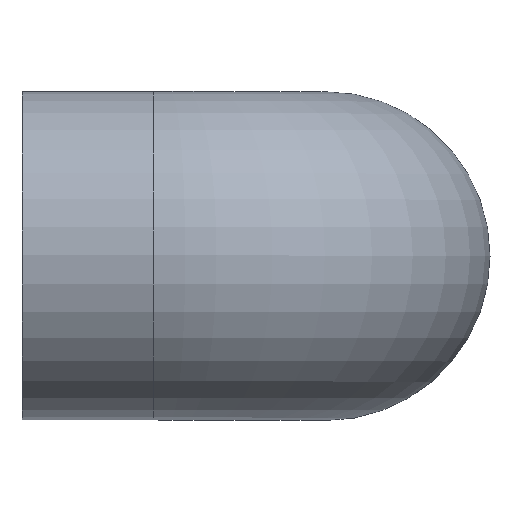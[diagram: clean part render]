
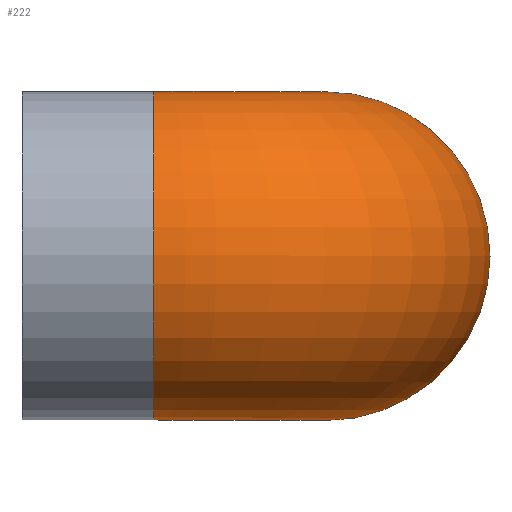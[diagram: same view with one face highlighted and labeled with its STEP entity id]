
A CAD part, top view. The second image highlights one B-rep face of the part: STEP entity #222.
In plain terms, the highlighted toroidal (fillet/blend) face has major radius 55.5 mm and minor radius 53 mm.
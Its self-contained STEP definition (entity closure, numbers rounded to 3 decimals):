
#25=FACE_BOUND('',#77,.T.);
#30=TOROIDAL_SURFACE('',#245,55.5,53.);
#54=FACE_OUTER_BOUND('',#76,.T.);
#76=EDGE_LOOP('',(#193));
#77=EDGE_LOOP('',(#194));
#93=CIRCLE('',#244,53.);
#94=CIRCLE('',#246,53.);
#124=VERTEX_POINT('',#5585);
#125=VERTEX_POINT('',#5588);
#150=EDGE_CURVE('',#124,#124,#93,.T.);
#151=EDGE_CURVE('',#125,#125,#94,.T.);
#193=ORIENTED_EDGE('',*,*,#150,.F.);
#194=ORIENTED_EDGE('',*,*,#151,.T.);
#222=ADVANCED_FACE('',(#54,#25),#30,.T.);
#244=AXIS2_PLACEMENT_3D('',#5586,#288,#289);
#245=AXIS2_PLACEMENT_3D('',#5587,#290,#291);
#246=AXIS2_PLACEMENT_3D('',#5589,#292,#293);
#288=DIRECTION('center_axis',(-1.,0.,0.));
#289=DIRECTION('ref_axis',(0.,0.,-1.));
#290=DIRECTION('center_axis',(0.,-1.,0.));
#291=DIRECTION('ref_axis',(0.,0.,-1.));
#292=DIRECTION('center_axis',(0.,0.,1.));
#293=DIRECTION('ref_axis',(-1.,0.,0.));
#5585=CARTESIAN_POINT('',(-55.5,0.,151.));
#5586=CARTESIAN_POINT('Origin',(-55.5,0.,98.));
#5587=CARTESIAN_POINT('Origin',(-55.5,0.,42.5));
#5588=CARTESIAN_POINT('',(53.,0.,42.5));
#5589=CARTESIAN_POINT('Origin',(0.,0.,42.5));
